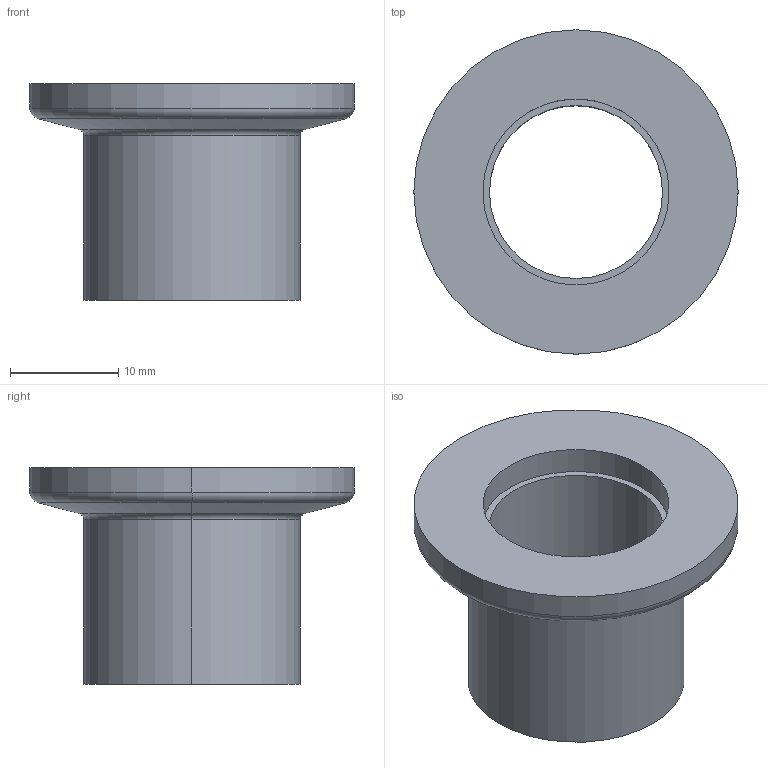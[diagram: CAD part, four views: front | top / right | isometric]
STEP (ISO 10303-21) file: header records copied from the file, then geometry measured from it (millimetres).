
FILE_DESCRIPTION (( 'STEP AP214' ), '1' );
FILE_NAME ('W3KF16.STEP', '2019-03-23T08:26:01', ( '' ), ( '' ), 'SwSTEP 2.0', 'SolidWorks 2018', '' );
FILE_SCHEMA (( 'AUTOMOTIVE_DESIGN' ));
Length unit declared in the file: millimetre
Products named in the file (1): W3KF16
Bounding box: 30 x 30 x 20 mm (x, y, z)
Volume: 3599.4 mm3; surface area: 3276.9 mm2
Topology: 1 solids, 1 shells, 17 faces, 34 edges, 20 vertices
Faces by surface type: cylinder 8, torus 4, plane 3, cone 2
Entity records: 486 total; most frequent: DIRECTION 94, CARTESIAN_POINT 72, ORIENTED_EDGE 68, AXIS2_PLACEMENT_3D 42, EDGE_CURVE 34, CIRCLE 24, EDGE_LOOP 20, VERTEX_POINT 20
